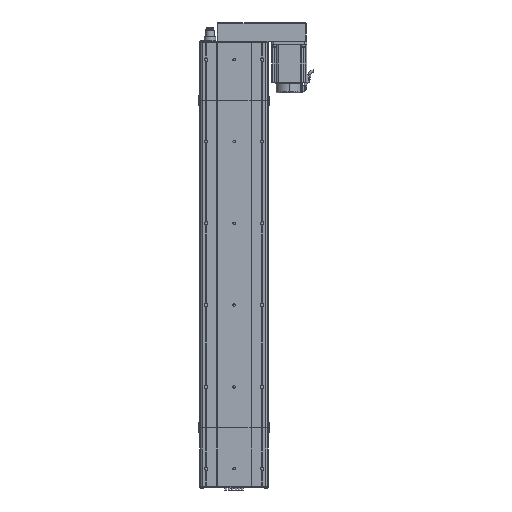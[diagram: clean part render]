
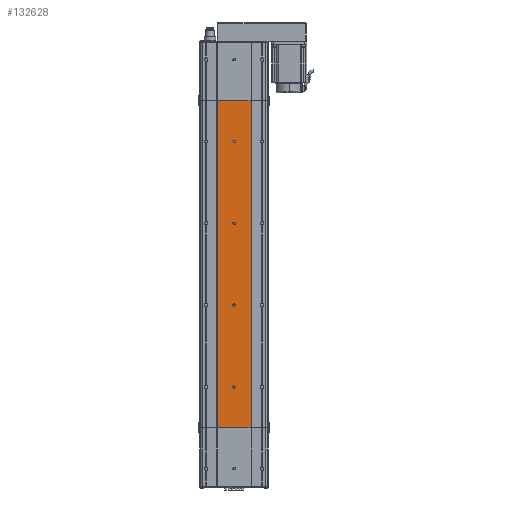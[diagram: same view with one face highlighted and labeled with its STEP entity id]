
A CAD part, front view. The second image highlights one B-rep face of the part: STEP entity #132628.
In plain terms, the highlighted planar face has unit normal (0, -1, 0).
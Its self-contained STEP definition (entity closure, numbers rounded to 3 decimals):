
#132411 = VERTEX_POINT ( 'NONE', #138967 ) ;
#132412 = EDGE_LOOP ( 'NONE', ( #132424, #132634 ) ) ;
#132418 = ORIENTED_EDGE ( 'NONE', *, *, #132638, .F. ) ;
#132420 = EDGE_LOOP ( 'NONE', ( #132626, #132563 ) ) ;
#132424 = ORIENTED_EDGE ( 'NONE', *, *, #132629, .F. ) ;
#132432 = ORIENTED_EDGE ( 'NONE', *, *, #132681, .F. ) ;
#132433 = EDGE_LOOP ( 'NONE', ( #132630, #132432 ) ) ;
#132451 = VERTEX_POINT ( 'NONE', #140925 ) ;
#132461 = VERTEX_POINT ( 'NONE', #140698 ) ;
#132469 = VERTEX_POINT ( 'NONE', #140697 ) ;
#132499 = VERTEX_POINT ( 'NONE', #140810 ) ;
#132555 = EDGE_CURVE ( 'NONE', #132560, #132631, #140991, .T. ) ;
#132556 = ORIENTED_EDGE ( 'NONE', *, *, #132558, .T. ) ;
#132558 = EDGE_CURVE ( 'NONE', #132560, #132411, #140982, .T. ) ;
#132560 = VERTEX_POINT ( 'NONE', #140999 ) ;
#132563 = ORIENTED_EDGE ( 'NONE', *, *, #132705, .F. ) ;
#132565 = EDGE_CURVE ( 'NONE', #132461, #132469, #141024, .T. ) ;
#132575 = ORIENTED_EDGE ( 'NONE', *, *, #132680, .F. ) ;
#132576 = ORIENTED_EDGE ( 'NONE', *, *, #132565, .F. ) ;
#132626 = ORIENTED_EDGE ( 'NONE', *, *, #132642, .F. ) ;
#132628 = ADVANCED_FACE ( 'NONE', ( #141389, #141268, #141254, #141253, #141262 ), #141369, .F. ) ;
#132629 = EDGE_CURVE ( 'NONE', #132673, #132682, #141241, .T. ) ;
#132630 = ORIENTED_EDGE ( 'NONE', *, *, #132632, .F. ) ;
#132631 = VERTEX_POINT ( 'NONE', #141249 ) ;
#132632 = EDGE_CURVE ( 'NONE', #132664, #132451, #141252, .T. ) ;
#132633 = ORIENTED_EDGE ( 'NONE', *, *, #132555, .F. ) ;
#132634 = ORIENTED_EDGE ( 'NONE', *, *, #132703, .F. ) ;
#132635 = VERTEX_POINT ( 'NONE', #141235 ) ;
#132636 = EDGE_LOOP ( 'NONE', ( #132633, #132556, #132641, #132418 ) ) ;
#132638 = EDGE_CURVE ( 'NONE', #132631, #132635, #141383, .T. ) ;
#132639 = EDGE_CURVE ( 'NONE', #132411, #132635, #141121, .T. ) ;
#132640 = EDGE_LOOP ( 'NONE', ( #132576, #132575 ) ) ;
#132641 = ORIENTED_EDGE ( 'NONE', *, *, #132639, .T. ) ;
#132642 = EDGE_CURVE ( 'NONE', #132499, #132677, #141251, .T. ) ;
#132664 = VERTEX_POINT ( 'NONE', #141284 ) ;
#132673 = VERTEX_POINT ( 'NONE', #141463 ) ;
#132677 = VERTEX_POINT ( 'NONE', #141459 ) ;
#132680 = EDGE_CURVE ( 'NONE', #132469, #132461, #141546, .T. ) ;
#132681 = EDGE_CURVE ( 'NONE', #132451, #132664, #141519, .T. ) ;
#132682 = VERTEX_POINT ( 'NONE', #141609 ) ;
#132703 = EDGE_CURVE ( 'NONE', #132682, #132673, #141437, .T. ) ;
#132705 = EDGE_CURVE ( 'NONE', #132677, #132499, #141439, .T. ) ;
#138967 = CARTESIAN_POINT ( 'NONE',  ( -41.5, 0., 0. ) ) ;
#140697 = CARTESIAN_POINT ( 'NONE',  ( 0., 0., 103. ) ) ;
#140698 = CARTESIAN_POINT ( 'NONE',  ( 0., 0., 97. ) ) ;
#140810 = CARTESIAN_POINT ( 'NONE',  ( 0., 0., 497. ) ) ;
#140925 = CARTESIAN_POINT ( 'NONE',  ( 0., 0., 303. ) ) ;
#140982 = LINE ( 'NONE', #141027, #141026 ) ;
#140983 = CARTESIAN_POINT ( 'NONE',  ( 0., 0., 100. ) ) ;
#140986 = DIRECTION ( 'NONE',  ( 1., 0., 0. ) ) ;
#140987 = VECTOR ( 'NONE', #140986, 1000. ) ;
#140990 = CARTESIAN_POINT ( 'NONE',  ( 0., 0., 800. ) ) ;
#140991 = LINE ( 'NONE', #140990, #140987 ) ;
#140999 = CARTESIAN_POINT ( 'NONE',  ( -41.5, 0., 800. ) ) ;
#141020 = DIRECTION ( 'NONE',  ( 0., 0., -1. ) ) ;
#141021 = DIRECTION ( 'NONE',  ( 0., -1., 0. ) ) ;
#141022 = AXIS2_PLACEMENT_3D ( 'NONE', #140983, #141021, #141020 ) ;
#141024 = CIRCLE ( 'NONE', #141022, 3. ) ;
#141025 = DIRECTION ( 'NONE',  ( 0., 0., -1. ) ) ;
#141026 = VECTOR ( 'NONE', #141025, 1000. ) ;
#141027 = CARTESIAN_POINT ( 'NONE',  ( -41.5, 0., 800. ) ) ;
#141119 = VECTOR ( 'NONE', #141298, 1000. ) ;
#141120 = CARTESIAN_POINT ( 'NONE',  ( 0., 0., 0. ) ) ;
#141121 = LINE ( 'NONE', #141120, #141119 ) ;
#141122 = DIRECTION ( 'NONE',  ( 0., 0., -1. ) ) ;
#141123 = VECTOR ( 'NONE', #141122, 1000. ) ;
#141125 = AXIS2_PLACEMENT_3D ( 'NONE', #141250, #141293, #141292 ) ;
#141133 = DIRECTION ( 'NONE',  ( 0., 0., -1. ) ) ;
#141233 = DIRECTION ( 'NONE',  ( 0., -1., 0. ) ) ;
#141234 = CARTESIAN_POINT ( 'NONE',  ( 0., 0., 300. ) ) ;
#141235 = CARTESIAN_POINT ( 'NONE',  ( 41.5, 0., 0. ) ) ;
#141237 = AXIS2_PLACEMENT_3D ( 'NONE', #141234, #141233, #141133 ) ;
#141238 = DIRECTION ( 'NONE',  ( 0., 0., -1. ) ) ;
#141239 = DIRECTION ( 'NONE',  ( 0., -1., 0. ) ) ;
#141240 = AXIS2_PLACEMENT_3D ( 'NONE', #141247, #141239, #141238 ) ;
#141241 = CIRCLE ( 'NONE', #141240, 3. ) ;
#141244 = DIRECTION ( 'NONE',  ( 0., 0., 1. ) ) ;
#141245 = DIRECTION ( 'NONE',  ( 0., 1., 0. ) ) ;
#141246 = CARTESIAN_POINT ( 'NONE',  ( 0., 0., 800. ) ) ;
#141247 = CARTESIAN_POINT ( 'NONE',  ( 0., 0., 700. ) ) ;
#141249 = CARTESIAN_POINT ( 'NONE',  ( 41.5, 0., 800. ) ) ;
#141250 = CARTESIAN_POINT ( 'NONE',  ( 0., 0., 500. ) ) ;
#141251 = CIRCLE ( 'NONE', #141125, 3. ) ;
#141252 = CIRCLE ( 'NONE', #141237, 3. ) ;
#141253 = FACE_BOUND ( 'NONE', #132420, .T. ) ;
#141254 = FACE_OUTER_BOUND ( 'NONE', #132636, .T. ) ;
#141262 = FACE_BOUND ( 'NONE', #132640, .T. ) ;
#141268 = FACE_BOUND ( 'NONE', #132412, .T. ) ;
#141284 = CARTESIAN_POINT ( 'NONE',  ( 0., 0., 297. ) ) ;
#141292 = DIRECTION ( 'NONE',  ( 0., 0., -1. ) ) ;
#141293 = DIRECTION ( 'NONE',  ( 0., -1., 0. ) ) ;
#141298 = DIRECTION ( 'NONE',  ( 1., 0., 0. ) ) ;
#141369 = PLANE ( 'NONE',  #141370 ) ;
#141370 = AXIS2_PLACEMENT_3D ( 'NONE', #141246, #141245, #141244 ) ;
#141382 = CARTESIAN_POINT ( 'NONE',  ( 41.5, 0., 800. ) ) ;
#141383 = LINE ( 'NONE', #141382, #141123 ) ;
#141389 = FACE_BOUND ( 'NONE', #132433, .T. ) ;
#141413 = AXIS2_PLACEMENT_3D ( 'NONE', #141460, #141614, #141613 ) ;
#141415 = AXIS2_PLACEMENT_3D ( 'NONE', #141537, #141535, #141534 ) ;
#141437 = CIRCLE ( 'NONE', #141510, 3. ) ;
#141439 = CIRCLE ( 'NONE', #141576, 3. ) ;
#141459 = CARTESIAN_POINT ( 'NONE',  ( 0., 0., 503. ) ) ;
#141460 = CARTESIAN_POINT ( 'NONE',  ( 0., 0., 100. ) ) ;
#141463 = CARTESIAN_POINT ( 'NONE',  ( 0., 0., 697. ) ) ;
#141484 = CARTESIAN_POINT ( 'NONE',  ( 0., 0., 700. ) ) ;
#141508 = DIRECTION ( 'NONE',  ( 0., 0., -1. ) ) ;
#141509 = DIRECTION ( 'NONE',  ( 0., -1., 0. ) ) ;
#141510 = AXIS2_PLACEMENT_3D ( 'NONE', #141484, #141509, #141508 ) ;
#141512 = CARTESIAN_POINT ( 'NONE',  ( 0., 0., 500. ) ) ;
#141519 = CIRCLE ( 'NONE', #141415, 3. ) ;
#141530 = DIRECTION ( 'NONE',  ( 0., 0., -1. ) ) ;
#141531 = DIRECTION ( 'NONE',  ( 0., -1., 0. ) ) ;
#141534 = DIRECTION ( 'NONE',  ( 0., 0., -1. ) ) ;
#141535 = DIRECTION ( 'NONE',  ( 0., -1., 0. ) ) ;
#141537 = CARTESIAN_POINT ( 'NONE',  ( 0., 0., 300. ) ) ;
#141546 = CIRCLE ( 'NONE', #141413, 3. ) ;
#141576 = AXIS2_PLACEMENT_3D ( 'NONE', #141512, #141531, #141530 ) ;
#141609 = CARTESIAN_POINT ( 'NONE',  ( 0., 0., 703. ) ) ;
#141613 = DIRECTION ( 'NONE',  ( 0., 0., -1. ) ) ;
#141614 = DIRECTION ( 'NONE',  ( 0., -1., 0. ) ) ;
